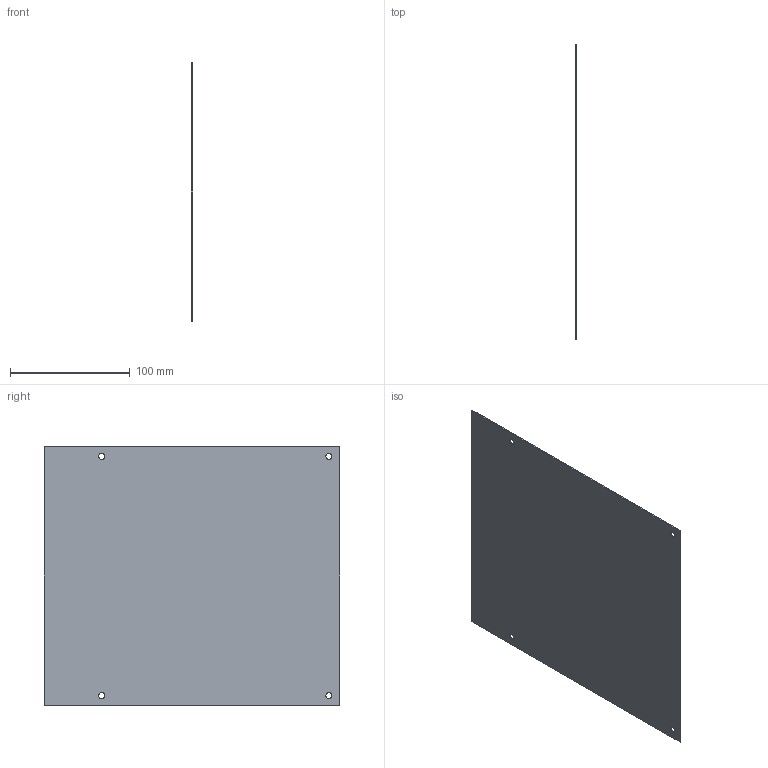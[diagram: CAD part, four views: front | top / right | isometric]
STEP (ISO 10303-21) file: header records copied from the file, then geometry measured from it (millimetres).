
FILE_DESCRIPTION(/* description */ (''),/* implementation_level */ '2;1');
FILE_NAME(/* name */ '14.frame-panels#14.3#HFPAL-3-247-216',/* time_stamp */ '2014-12-01T20:20:09+01:00',/* author */ (''),/* organization */ (''),/* preprocessor_version */ 'ST-DEVELOPER v14',/* originating_system */ '',/* authorisation */ '');
FILE_SCHEMA (('AUTOMOTIVE_DESIGN'));
Length unit declared in the file: millimetre
Products named in the file (1): Document
Bounding box: 1 x 247 x 216 mm (x, y, z)
Volume: 53273.2 mm3; surface area: 107535.3 mm2
Topology: 1 solids, 1 shells, 14 faces, 36 edges, 24 vertices
Faces by surface type: bspline 8, plane 6
Entity records: 978 total; most frequent: CARTESIAN_POINT 488, ORIENTED_EDGE 72, PCURVE 72, DEFINITIONAL_REPRESENTATION 72, B_SPLINE_CURVE_WITH_KNOTS 68, SURFACE_CURVE 36, EDGE_CURVE 36, VERTEX_POINT 24
